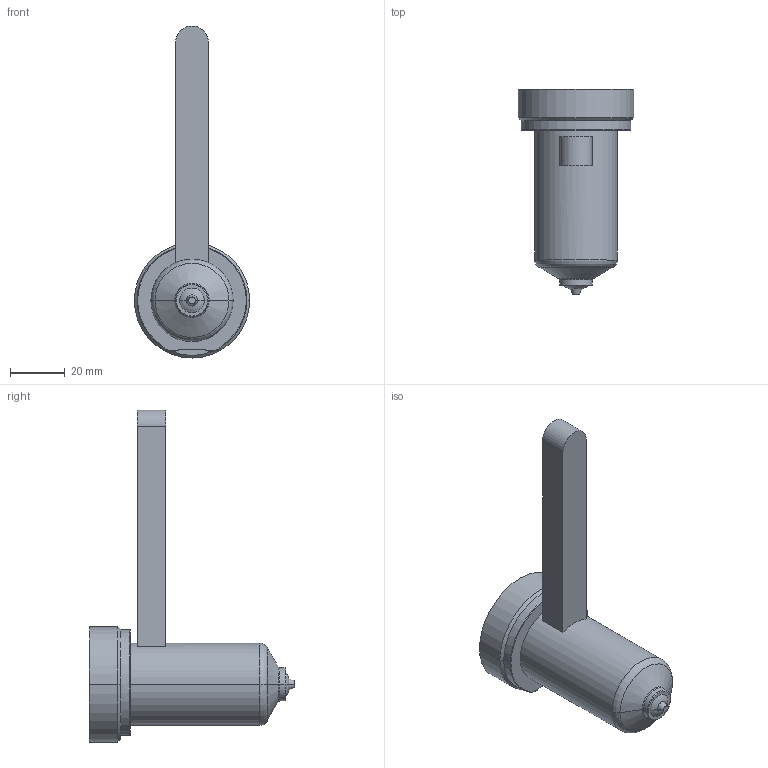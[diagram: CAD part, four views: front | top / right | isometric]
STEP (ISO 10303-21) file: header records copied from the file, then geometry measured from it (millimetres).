
FILE_DESCRIPTION((''),'2;1');
FILE_NAME('EO08_VG-BL_STD_060_COT','2024-02-19T13:04:41',('sundharh'),(''),'CREO PARAMETRIC BY PTC INC, 2023154','CREO PARAMETRIC BY PTC INC, 2023154','');
FILE_SCHEMA(('CONFIG_CONTROL_DESIGN'));
Length unit declared in the file: millimetre
Products named in the file (1): EO08_VG-BL_STD_060_COT
Bounding box: 42 x 75 x 121 mm (x, y, z)
Volume: 67654.5 mm3; surface area: 13199.8 mm2
Topology: 1 solids, 1 shells, 38 faces, 81 edges, 48 vertices
Faces by surface type: cylinder 11, plane 10, torus 9, cone 6, sphere 2
Entity records: 1135 total; most frequent: CARTESIAN_POINT 247, DIRECTION 199, ORIENTED_EDGE 162, AXIS2_PLACEMENT_3D 86, EDGE_CURVE 81, VERTEX_POINT 48, CIRCLE 48, EDGE_LOOP 41
